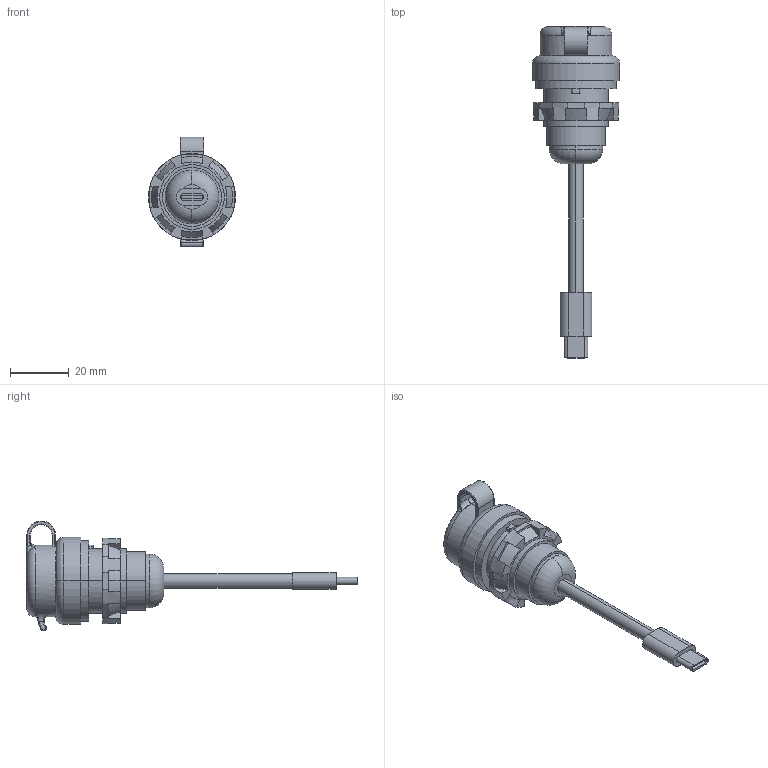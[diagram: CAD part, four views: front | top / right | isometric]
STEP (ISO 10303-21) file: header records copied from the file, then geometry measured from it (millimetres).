
FILE_DESCRIPTION (( 'STEP AP203' ), '1' );
FILE_NAME ('ZF_STEP_E2_xUSBxEHx.STEP', '2025-11-21T09:42:19', ( '' ), ( '' ), 'SwSTEP 2.0', 'SolidWorks 2023', '' );
FILE_SCHEMA (( 'CONFIG_CONTROL_DESIGN' ));
Length unit declared in the file: millimetre
Products named in the file (9): Cappuccio USB-RJ45; ZF_STEP_VE_GFx2xA_21008; Corpo_USB_Uscita posteriore cavo tipo C; Componente_E2_xUSBxxxx_USB tipo A; Corpo_USB_E; ZF_STEP_VE_GFx2xA; Componente_E2_xUSBxxxx_USB tipo C; Componente_E2_xUSBxExx; ZF_STEP_E2_xUSBxEHx
Assembly tree (8 placements, depth 3):
  ZF_STEP_E2_xUSBxEHx
    Corpo_USB_E
      Corpo_USB_Uscita posteriore cavo tipo C
      Cappuccio USB-RJ45
      Componente_E2_xUSBxxxx_USB tipo A
    Componente_E2_xUSBxExx
      Componente_E2_xUSBxxxx_USB tipo C
    ZF_STEP_VE_GFx2xA
      ZF_STEP_VE_GFx2xA_21008
Bounding box: 29.6 x 112.89 x 37.38 mm (x, y, z)
Volume: 26360.8 mm3; surface area: 13027.6 mm2
Topology: 6 solids, 6 shells, 249 faces, 608 edges, 380 vertices
Faces by surface type: plane 105, cylinder 70, cone 25, torus 24, bspline 23, sphere 2
Entity records: 9188 total; most frequent: CARTESIAN_POINT 2389, DIRECTION 1270, ORIENTED_EDGE 1212, EDGE_CURVE 606, AXIS2_PLACEMENT_3D 493, VERTEX_POINT 380, LINE 284, VECTOR 284
